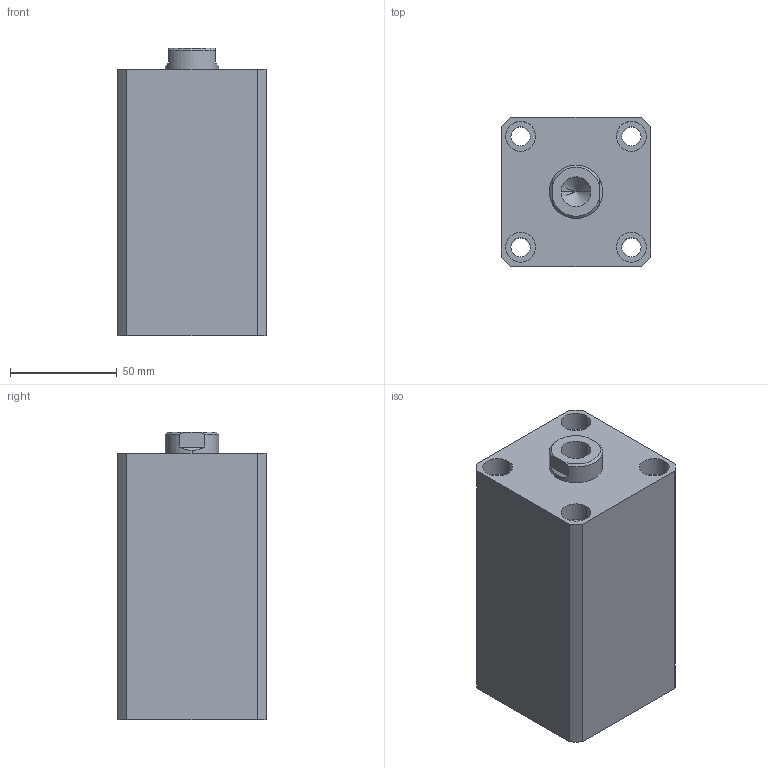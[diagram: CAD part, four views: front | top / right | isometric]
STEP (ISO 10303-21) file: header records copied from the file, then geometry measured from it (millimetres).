
FILE_DESCRIPTION (( 'STEP AP203' ), '1' );
FILE_NAME ('HTB-SDMB40-70N.STEP', '2019-10-09T02:16:31', ( '微软用户' ), ( '微软中国' ), 'SwSTEP 2.0', 'SolidWorks 2012', '' );
FILE_SCHEMA (( 'CONFIG_CONTROL_DESIGN' ));
Length unit declared in the file: millimetre
Products named in the file (3): HTB-SDMB40-70N活塞杆; HTB-SDMB40-70掛极; HTB-SDMB40-70N
Assembly tree (2 placements, depth 2):
  HTB-SDMB40-70N
    HTB-SDMB40-70掛极
    HTB-SDMB40-70N活塞杆
Bounding box: 70 x 70 x 135 mm (x, y, z)
Volume: 516263 mm3; surface area: 87493.9 mm2
Topology: 2 solids, 2 shells, 137 faces, 331 edges, 217 vertices
Faces by surface type: plane 65, cylinder 46, bspline 16, torus 6, cone 4
Entity records: 5074 total; most frequent: CARTESIAN_POINT 1580, ORIENTED_EDGE 658, DIRECTION 647, EDGE_CURVE 329, AXIS2_PLACEMENT_3D 232, VERTEX_POINT 217, VECTOR 183, LINE 183
